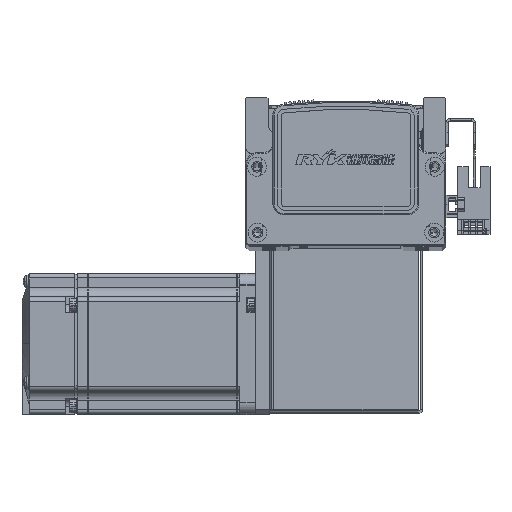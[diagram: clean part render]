
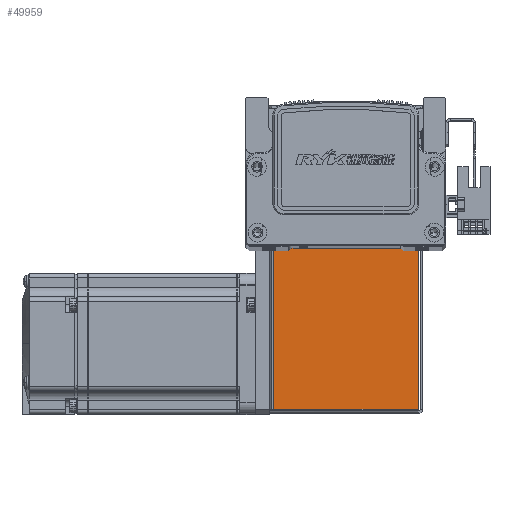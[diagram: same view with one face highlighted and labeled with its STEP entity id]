
A CAD part, top view. The second image highlights one B-rep face of the part: STEP entity #49959.
In plain terms, the highlighted planar face has unit normal (0, 0, 1) as drawn and (0, 0, -1) by its records, which use the part's own axes.
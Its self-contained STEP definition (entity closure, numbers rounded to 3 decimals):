
#2552 = ORIENTED_EDGE ( 'NONE', *, *, #59784, .T. ) ;
#2556 = ORIENTED_EDGE ( 'NONE', *, *, #59745, .F. ) ;
#2557 = ORIENTED_EDGE ( 'NONE', *, *, #59767, .T. ) ;
#2582 = ORIENTED_EDGE ( 'NONE', *, *, #59756, .T. ) ;
#15412 = VERTEX_POINT ( 'NONE', #79789 ) ;
#24586 = PLANE ( 'NONE',  #43391 ) ;
#24646 = CARTESIAN_POINT ( 'NONE',  ( 0., 0., -35. ) ) ;
#24648 = DIRECTION ( 'NONE',  ( 0., 0., 1. ) ) ;
#24686 = DIRECTION ( 'NONE',  ( 0., -1., 0. ) ) ;
#29261 = VERTEX_POINT ( 'NONE', #47571 ) ;
#29288 = VERTEX_POINT ( 'NONE', #47554 ) ;
#29327 = VERTEX_POINT ( 'NONE', #47605 ) ;
#33007 = FACE_OUTER_BOUND ( 'NONE', #63607, .T. ) ;
#34997 = LINE ( 'NONE', #37244, #35018 ) ;
#35018 = VECTOR ( 'NONE', #37224, 1000. ) ;
#35020 = LINE ( 'NONE', #37194, #35048 ) ;
#35033 = LINE ( 'NONE', #37294, #35046 ) ;
#35046 = VECTOR ( 'NONE', #37291, 1000. ) ;
#35048 = VECTOR ( 'NONE', #37178, 1000. ) ;
#35107 = VECTOR ( 'NONE', #37319, 1000. ) ;
#35109 = LINE ( 'NONE', #37324, #35107 ) ;
#37178 = DIRECTION ( 'NONE',  ( 1., 0., 0. ) ) ;
#37194 = CARTESIAN_POINT ( 'NONE',  ( 32.5, 0.737, -35. ) ) ;
#37224 = DIRECTION ( 'NONE',  ( 0., 1., 0. ) ) ;
#37244 = CARTESIAN_POINT ( 'NONE',  ( -30.793, 0., -35. ) ) ;
#37291 = DIRECTION ( 'NONE',  ( 1., 0., 0. ) ) ;
#37294 = CARTESIAN_POINT ( 'NONE',  ( 0., 72.5, -35. ) ) ;
#37319 = DIRECTION ( 'NONE',  ( 0., -1., 0. ) ) ;
#37324 = CARTESIAN_POINT ( 'NONE',  ( 30.763, 72.5, -35. ) ) ;
#43391 = AXIS2_PLACEMENT_3D ( 'NONE', #24646, #24648, #24686 ) ;
#47554 = CARTESIAN_POINT ( 'NONE',  ( -30.793, 0.737, -35. ) ) ;
#47571 = CARTESIAN_POINT ( 'NONE',  ( 30.763, 72.5, -35. ) ) ;
#47605 = CARTESIAN_POINT ( 'NONE',  ( -30.793, 72.5, -35. ) ) ;
#49959 = ADVANCED_FACE ( 'NONE', ( #33007 ), #24586, .F. ) ;
#59745 = EDGE_CURVE ( 'NONE', #29288, #15412, #35020, .T. ) ;
#59756 = EDGE_CURVE ( 'NONE', #29288, #29327, #34997, .T. ) ;
#59767 = EDGE_CURVE ( 'NONE', #29327, #29261, #35033, .T. ) ;
#59784 = EDGE_CURVE ( 'NONE', #29261, #15412, #35109, .T. ) ;
#63607 = EDGE_LOOP ( 'NONE', ( #2552, #2556, #2582, #2557 ) ) ;
#79789 = CARTESIAN_POINT ( 'NONE',  ( 30.763, 0.737, -35. ) ) ;
